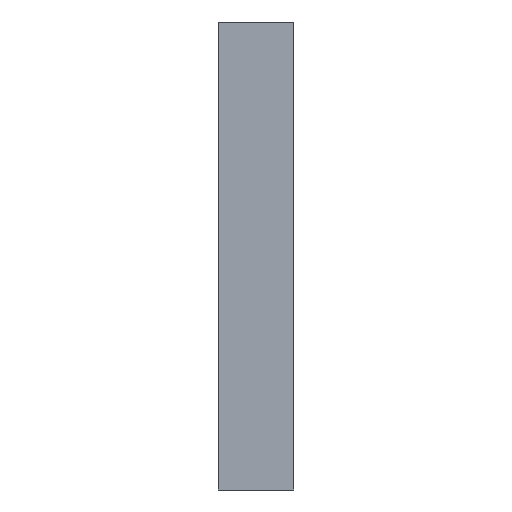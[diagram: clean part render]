
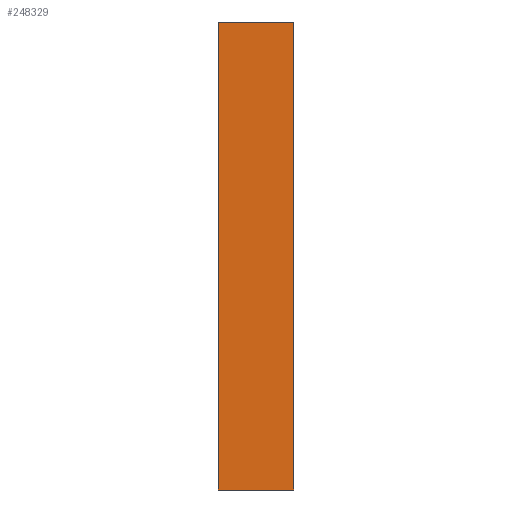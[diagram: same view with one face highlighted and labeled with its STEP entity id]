
A CAD part, left-side view. The second image highlights one B-rep face of the part: STEP entity #248329.
In plain terms, the highlighted planar face has unit normal (-1, 0, 0).
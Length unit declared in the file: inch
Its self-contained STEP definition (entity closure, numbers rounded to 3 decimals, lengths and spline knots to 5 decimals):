
#160472 = CARTESIAN_POINT ( 'NONE',  ( -27.99987, 2.75, -8.49987 ) ) ;
#160473 = DIRECTION ( 'NONE',  ( 0., -1., 0. ) ) ;
#160474 = VECTOR ( 'NONE', #160473, 39.37008 ) ;
#160475 = CARTESIAN_POINT ( 'NONE',  ( -27.99987, 61.77318, -8.49987 ) ) ;
#160476 = LINE ( 'NONE', #160475, #160474 ) ;
#160597 = CARTESIAN_POINT ( 'NONE',  ( -27.99987, 0., 8.49987 ) ) ;
#160857 = FACE_OUTER_BOUND ( 'NONE', #248331, .T. ) ;
#160859 = DIRECTION ( 'NONE',  ( 0., 1., 0. ) ) ;
#160860 = VECTOR ( 'NONE', #160859, 39.37008 ) ;
#160861 = CARTESIAN_POINT ( 'NONE',  ( -27.99987, 61.77318, 8.49987 ) ) ;
#160862 = LINE ( 'NONE', #160861, #160860 ) ;
#160867 = CARTESIAN_POINT ( 'NONE',  ( -27.99987, 2.75, 8.49987 ) ) ;
#160919 = DIRECTION ( 'NONE',  ( 0., 0., -1. ) ) ;
#160920 = VECTOR ( 'NONE', #160919, 39.37008 ) ;
#160921 = CARTESIAN_POINT ( 'NONE',  ( -27.99987, 2.75, -8.21 ) ) ;
#160922 = LINE ( 'NONE', #160921, #160920 ) ;
#160923 = DIRECTION ( 'NONE',  ( 0., 0., 1. ) ) ;
#160924 = DIRECTION ( 'NONE',  ( -1., 0., 0. ) ) ;
#160926 = CARTESIAN_POINT ( 'NONE',  ( -27.99987, 61.77318, 8.49987 ) ) ;
#160928 = AXIS2_PLACEMENT_3D ( 'NONE', #160926, #160924, #160923 ) ;
#160931 = PLANE ( 'NONE',  #160928 ) ;
#161001 = CARTESIAN_POINT ( 'NONE',  ( -27.99987, 0., -8.49987 ) ) ;
#161002 = DIRECTION ( 'NONE',  ( 0., 0., 1. ) ) ;
#161004 = VECTOR ( 'NONE', #161002, 39.37008 ) ;
#161005 = CARTESIAN_POINT ( 'NONE',  ( -27.99987, 0., 8.49987 ) ) ;
#161006 = LINE ( 'NONE', #161005, #161004 ) ;
#248221 = EDGE_CURVE ( 'NONE', #248223, #248391, #160476, .T. ) ;
#248223 = VERTEX_POINT ( 'NONE', #160472 ) ;
#248259 = VERTEX_POINT ( 'NONE', #160597 ) ;
#248325 = VERTEX_POINT ( 'NONE', #160867 ) ;
#248328 = EDGE_CURVE ( 'NONE', #248259, #248325, #160862, .T. ) ;
#248329 = ADVANCED_FACE ( 'NONE', ( #160857 ), #160931, .T. ) ;
#248331 = EDGE_LOOP ( 'NONE', ( #248334, #248336, #248339, #248341 ) ) ;
#248334 = ORIENTED_EDGE ( 'NONE', *, *, #248388, .T. ) ;
#248336 = ORIENTED_EDGE ( 'NONE', *, *, #248328, .T. ) ;
#248339 = ORIENTED_EDGE ( 'NONE', *, *, #248340, .T. ) ;
#248340 = EDGE_CURVE ( 'NONE', #248325, #248223, #160922, .T. ) ;
#248341 = ORIENTED_EDGE ( 'NONE', *, *, #248221, .T. ) ;
#248388 = EDGE_CURVE ( 'NONE', #248391, #248259, #161006, .T. ) ;
#248391 = VERTEX_POINT ( 'NONE', #161001 ) ;
